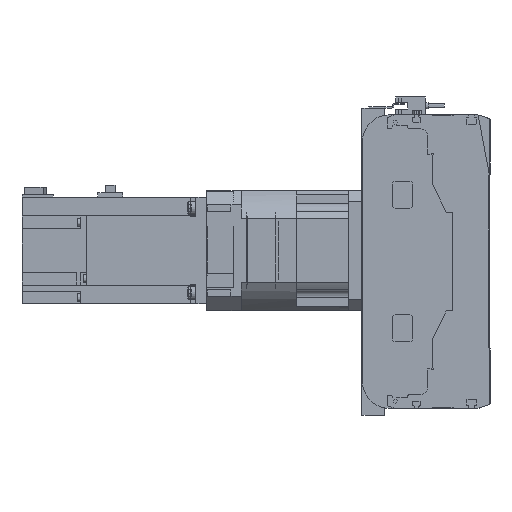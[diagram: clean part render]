
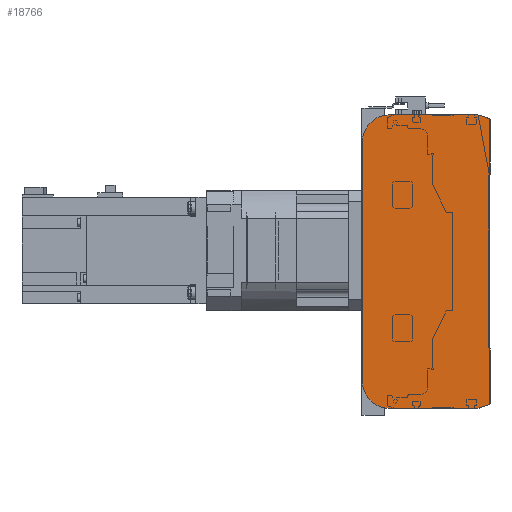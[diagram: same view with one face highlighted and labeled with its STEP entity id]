
A CAD part, left-side view. The second image highlights one B-rep face of the part: STEP entity #18766.
In plain terms, the highlighted planar face has unit normal (-1, 0, 0).
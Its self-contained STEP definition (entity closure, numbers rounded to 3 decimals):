
#1072=CIRCLE('',#20451,20.);
#1073=CIRCLE('',#20454,20.);
#4666=ORIENTED_EDGE('',*,*,#8136,.F.);
#4667=ORIENTED_EDGE('',*,*,#8178,.F.);
#4668=ORIENTED_EDGE('',*,*,#8176,.F.);
#4669=ORIENTED_EDGE('',*,*,#8174,.F.);
#4670=ORIENTED_EDGE('',*,*,#8163,.F.);
#4671=ORIENTED_EDGE('',*,*,#8154,.F.);
#4672=ORIENTED_EDGE('',*,*,#8150,.F.);
#4673=ORIENTED_EDGE('',*,*,#8147,.F.);
#8136=EDGE_CURVE('',#10215,#10216,#11899,.T.);
#8147=EDGE_CURVE('',#10216,#10223,#11910,.T.);
#8150=EDGE_CURVE('',#10223,#10225,#11913,.T.);
#8154=EDGE_CURVE('',#10225,#10226,#11917,.T.);
#8163=EDGE_CURVE('',#10226,#10232,#11926,.T.);
#8174=EDGE_CURVE('',#10232,#10239,#1072,.T.);
#8176=EDGE_CURVE('',#10239,#10240,#11938,.T.);
#8178=EDGE_CURVE('',#10240,#10215,#1073,.T.);
#10215=VERTEX_POINT('',#31033);
#10216=VERTEX_POINT('',#31035);
#10223=VERTEX_POINT('',#31054);
#10225=VERTEX_POINT('',#31060);
#10226=VERTEX_POINT('',#31066);
#10232=VERTEX_POINT('',#31082);
#10239=VERTEX_POINT('',#31101);
#10240=VERTEX_POINT('',#31105);
#11899=LINE('',#31034,#13482);
#11910=LINE('',#31053,#13493);
#11913=LINE('',#31059,#13496);
#11917=LINE('',#31065,#13500);
#11926=LINE('',#31081,#13509);
#11938=LINE('',#31104,#13521);
#13482=VECTOR('',#24766,1000.);
#13493=VECTOR('',#24779,1000.);
#13496=VECTOR('',#24784,1000.);
#13500=VECTOR('',#24790,1000.);
#13509=VECTOR('',#24801,1000.);
#13521=VECTOR('',#24819,1000.);
#14906=EDGE_LOOP('',(#4666,#4667,#4668,#4669,#4670,#4671,#4672,#4673));
#16666=FACE_BOUND('',#14906,.T.);
#17865=PLANE('',#20455);
#18766=ADVANCED_FACE('',(#16666),#17865,.F.);
#20451=AXIS2_PLACEMENT_3D('',#31100,#24814,#24815);
#20454=AXIS2_PLACEMENT_3D('',#31108,#24823,#24824);
#20455=AXIS2_PLACEMENT_3D('',#31109,#24825,#24826);
#24766=DIRECTION('',(0.,-1.,0.));
#24779=DIRECTION('',(0.,-0.945,-0.328));
#24784=DIRECTION('',(0.,0.,-1.));
#24790=DIRECTION('',(0.,0.945,-0.328));
#24801=DIRECTION('',(0.,1.,0.));
#24814=DIRECTION('',(1.,0.,0.));
#24815=DIRECTION('',(0.,0.,-1.));
#24819=DIRECTION('',(0.,0.,1.));
#24823=DIRECTION('',(1.,0.,0.));
#24824=DIRECTION('',(0.,0.,-1.));
#24825=DIRECTION('',(1.,0.,0.));
#24826=DIRECTION('',(0.,0.,-1.));
#31033=CARTESIAN_POINT('',(0.,75.5,110.));
#31034=CARTESIAN_POINT('',(0.,75.5,110.));
#31035=CARTESIAN_POINT('',(0.,9.,110.));
#31053=CARTESIAN_POINT('',(0.,9.,110.));
#31054=CARTESIAN_POINT('',(0.,0.5,107.05));
#31059=CARTESIAN_POINT('',(0.,0.5,107.05));
#31060=CARTESIAN_POINT('',(0.,0.5,-107.05));
#31065=CARTESIAN_POINT('',(0.,0.5,-107.05));
#31066=CARTESIAN_POINT('',(0.,9.,-110.));
#31081=CARTESIAN_POINT('',(0.,9.,-110.));
#31082=CARTESIAN_POINT('',(0.,75.5,-110.));
#31100=CARTESIAN_POINT('',(0.,75.5,-90.));
#31101=CARTESIAN_POINT('',(0.,95.5,-90.));
#31104=CARTESIAN_POINT('',(0.,95.5,-90.));
#31105=CARTESIAN_POINT('',(0.,95.5,90.));
#31108=CARTESIAN_POINT('',(0.,75.5,90.));
#31109=CARTESIAN_POINT('',(0.,75.5,-90.));
